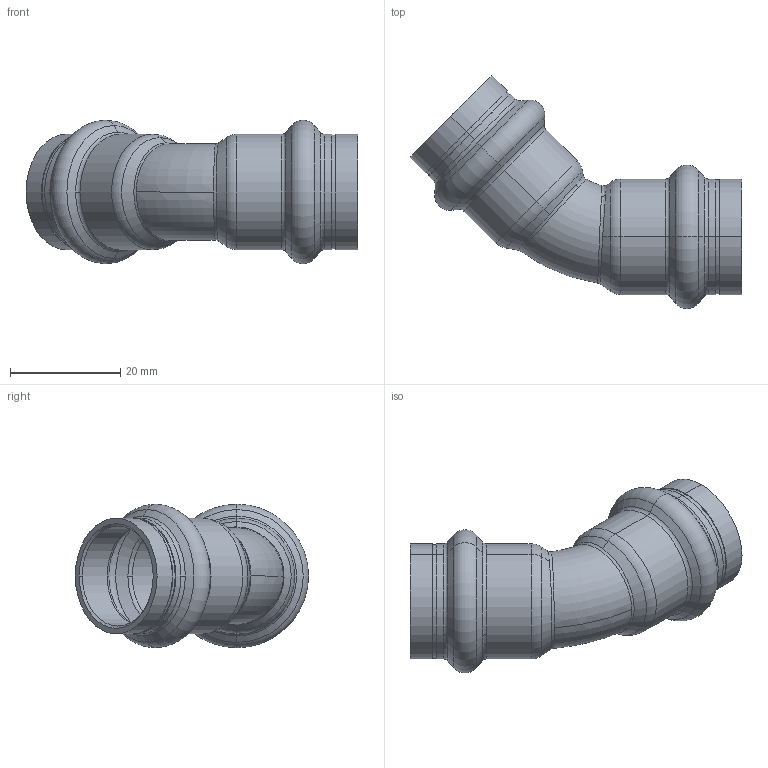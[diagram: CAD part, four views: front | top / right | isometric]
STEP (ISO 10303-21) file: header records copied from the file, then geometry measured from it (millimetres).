
FILE_DESCRIPTION (( 'STEP AP203' ), '1' );
FILE_NAME ('SP5041 Ø18.STEP', '2017-04-24T08:14:31', ( '' ), ( '' ), 'SwSTEP 2.0', 'SolidWorks 2016', '' );
FILE_SCHEMA (( 'CONFIG_CONTROL_DESIGN' ));
Length unit declared in the file: millimetre
Products named in the file (1): SP5041 ﾘ18
Bounding box: 60.34 x 42.39 x 26.1 mm (x, y, z)
Volume: 5797.9 mm3; surface area: 8321.5 mm2
Topology: 1 solids, 1 shells, 98 faces, 226 edges, 134 vertices
Faces by surface type: torus 36, cone 28, cylinder 24, plane 6, bspline 4
Entity records: 3918 total; most frequent: CARTESIAN_POINT 1560, DIRECTION 542, ORIENTED_EDGE 452, AXIS2_PLACEMENT_3D 245, EDGE_CURVE 226, CIRCLE 150, VERTEX_POINT 134, EDGE_LOOP 104
